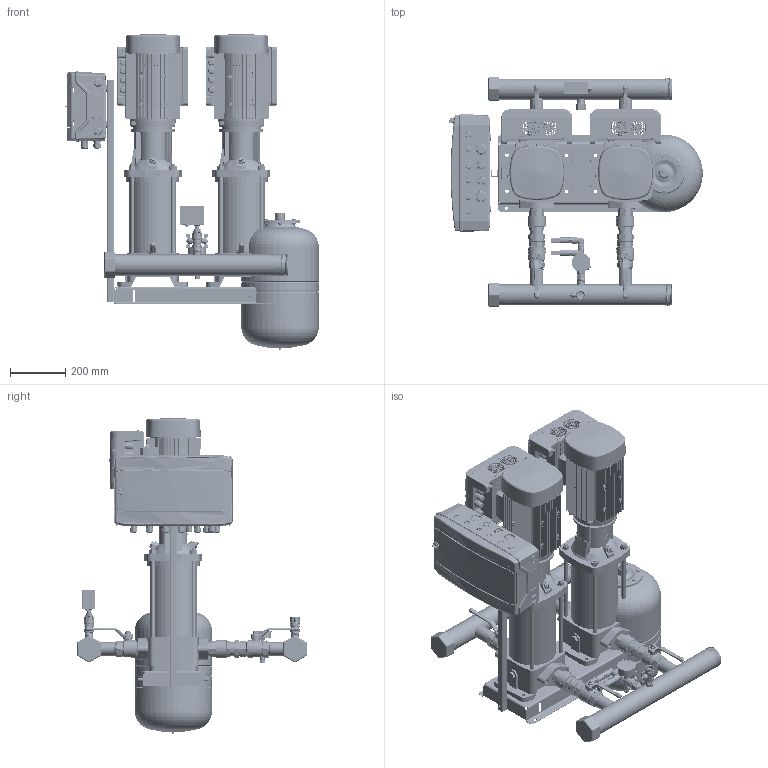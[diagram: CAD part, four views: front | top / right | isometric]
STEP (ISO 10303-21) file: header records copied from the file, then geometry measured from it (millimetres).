
FILE_DESCRIPTION(('CATIA V5 STEP Exchange','CAx-IF Rec.Pracs.--- Model Styling and Organization---1.4--- 2014-01-23','CAx-IF Rec.Pracs.---3D Tessellated Data Validation Properties---0.5---2014-09-14'),'2;1');
FILE_NAME('C:\Users\78432\YandexDisk\Drawings and 3D\3D Hydro Booster\Hydro-ME 3D\Hydro Models\Hydro ME 2 CRV10-xx\Hydro ME 2 CRVE10-9.stp','2023-09-20T10:10:25+00:00',('none'),('none'),'CATIA Version 5-6 Release 2019 SP6','CATIA V5 STEP AP242 v1','none');
FILE_SCHEMA(('AP242_MANAGED_MODEL_BASED_3D_ENGINEERING_MIM_LF {1 0 10303 442 1 1 4}'));
Length unit declared in the file: millimetre
Products named in the file (46): Hydro ME 2 CRVE10-9; 92051008; CRV10-9 Set; CRV 10-9_A_Oval_3kW; Base; Flange.1; Flange.2; Sleeve; Pumphead; Staybolt.1; Staybolt.2; Staybolt.3; Staybolt.4; Plug; AirVent; Motor; 92807544_9022-05; Hydraulica NY DN32 1,5 PN16; DN40_FM_LV_47.303.40; 92807557_9013-05; SAJ PDH30 4-7,5kW; 97941444; 405801; 405816; 91040267; 97941481; 00ID7527; Holder and CP 18mod; 92878909; Control ME (18mod); 2 sensors + manometer cpl.; manometr 16 bar; RPD-I-G1_2; 9021-01; 2070 1/2-1/2; _2020 1/2-1/2; 98594078; Tank 24L cpl.; DN20_FF_BF_47.300.20; WAV-24(D140 1'')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
Assembly tree (53 placements, depth 4):
  Hydro ME 2 CRVE10-9
    92051008
    CRV10-9 Set  x2
      CRV 10-9_A_Oval_3kW
        Base
        Flange.1
        Flange.2
        Sleeve
        Pumphead
        Staybolt.1
        Staybolt.2
        Staybolt.3
        Staybolt.4
        Plug
        AirVent
        Motor
      92807544_9022-05
      Hydraulica NY DN32 1,5 PN16
      DN40_FM_LV_47.303.40
      92807557_9013-05
      SAJ PDH30 4-7,5kW
    97941444  x2
      405801
      405816
      91040267
      97941481
    00ID7527  x2
    Holder and CP 18mod
      92878909
      Control ME (18mod)
    2 sensors + manometer cpl.
      manometr 16 bar
      RPD-I-G1_2  x2
      9021-01
      2070 1/2-1/2
      _2020 1/2-1/2
      98594078
    Tank 24L cpl.
      DN20_FF_BF_47.300.20
      9021-03
    Relay cpl.
      Relay RD-2R
      DN20_FF_BF_47.300.20
      2530 3/4-1/2
      _2530 1/2-1/4
    91078139
  WAV-24(D140 1'')
Bounding box: 916.82 x 829.22 x 1144.93 mm (x, y, z)
Volume: 76991411.4 mm3; surface area: 7297815.5 mm2
Topology: 182 solids, 414 shells, 28467 faces, 81152 edges, 54276 vertices
Faces by surface type: plane 11496, bspline 7304, cylinder 6775, cone 2087, torus 336, extrusion 260, sphere 209
Entity records: 689365 total; most frequent: CARTESIAN_POINT 345643, ORIENTED_EDGE 88497, EDGE_CURVE 44789, DIRECTION 40391, VERTEX_POINT 29928, VECTOR 18849, LINE 18784, B_SPLINE_CURVE_WITH_KNOTS 17720
